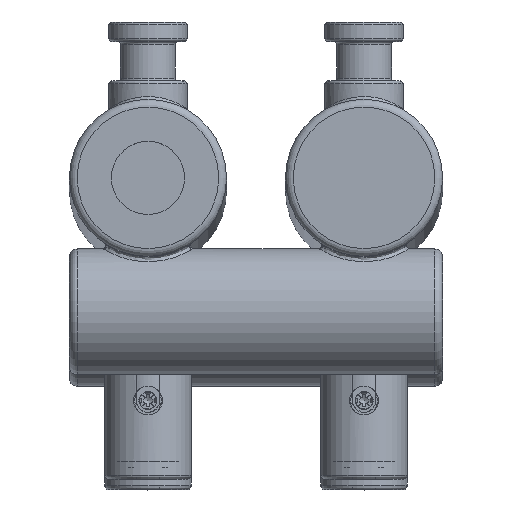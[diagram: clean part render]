
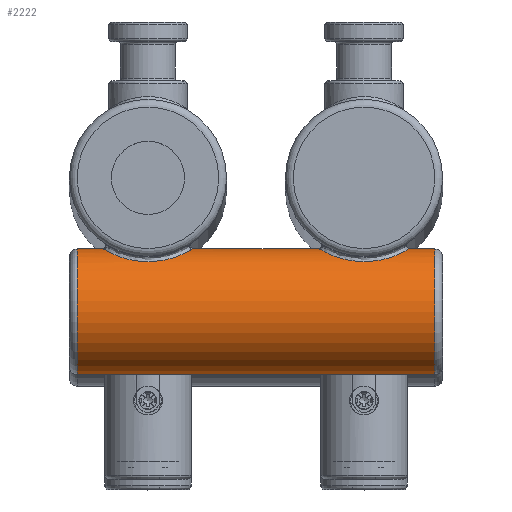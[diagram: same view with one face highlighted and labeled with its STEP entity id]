
A CAD part, top view. The second image highlights one B-rep face of the part: STEP entity #2222.
In plain terms, the highlighted cylindrical face has radius 16 mm (diameter 32 mm), a full revolution.
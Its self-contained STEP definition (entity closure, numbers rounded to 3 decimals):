
#175=FACE_BOUND('',#549,.T.);
#176=FACE_BOUND('',#550,.T.);
#199=LINE('',#4394,#279);
#279=VECTOR('',#2776,16.);
#359=CYLINDRICAL_SURFACE('',#2417,16.);
#397=FACE_OUTER_BOUND('',#548,.T.);
#548=EDGE_LOOP('',(#1560,#1561,#1562,#1563));
#549=EDGE_LOOP('',(#1564));
#550=EDGE_LOOP('',(#1565));
#714=B_SPLINE_CURVE_WITH_KNOTS('',3,(#4365,#4366,#4367,#4368,#4369,#4370,
#4371,#4372,#4373,#4374,#4375,#4376,#4377,#4378,#4379,#4380,#4381,#4382,
#4383,#4384,#4385,#4386,#4387,#4388,#4389),.UNSPECIFIED.,.T.,.F.,(4,1,1,
1,1,1,1,1,1,1,1,1,1,1,1,1,1,1,1,1,1,1,4),(0.,0.367,0.733,
0.756,0.779,0.825,0.916,
1.1,1.466,1.955,2.199,2.322,
2.444,2.688,2.933,3.177,3.421,
3.666,3.91,4.154,4.399,4.765,
5.132),.UNSPECIFIED.);
#715=B_SPLINE_CURVE_WITH_KNOTS('',3,(#4397,#4398,#4399,#4400,#4401,#4402,
#4403,#4404,#4405,#4406,#4407,#4408,#4409,#4410,#4411,#4412,#4413,#4414,
#4415,#4416,#4417,#4418,#4419,#4420,#4421),.UNSPECIFIED.,.T.,.F.,(4,1,1,
1,1,1,1,1,1,1,1,1,1,1,1,1,1,1,1,1,1,1,4),(0.,0.367,0.733,
1.1,1.283,1.466,1.711,1.955,
2.077,2.199,2.444,2.933,3.177,
3.421,3.666,3.788,3.91,4.154,
4.277,4.399,4.582,4.765,5.132),
 .UNSPECIFIED.);
#764=CIRCLE('',#2418,16.);
#765=CIRCLE('',#2419,16.);
#960=VERTEX_POINT('',#4363);
#961=VERTEX_POINT('',#4391);
#962=VERTEX_POINT('',#4393);
#963=VERTEX_POINT('',#4396);
#1204=EDGE_CURVE('',#960,#960,#714,.T.);
#1205=EDGE_CURVE('',#961,#961,#764,.T.);
#1206=EDGE_CURVE('',#961,#962,#199,.T.);
#1207=EDGE_CURVE('',#962,#962,#765,.T.);
#1208=EDGE_CURVE('',#963,#963,#715,.T.);
#1560=ORIENTED_EDGE('',*,*,#1205,.F.);
#1561=ORIENTED_EDGE('',*,*,#1206,.T.);
#1562=ORIENTED_EDGE('',*,*,#1207,.F.);
#1563=ORIENTED_EDGE('',*,*,#1206,.F.);
#1564=ORIENTED_EDGE('',*,*,#1208,.F.);
#1565=ORIENTED_EDGE('',*,*,#1204,.F.);
#2222=ADVANCED_FACE('',(#397,#175,#176),#359,.T.);
#2417=AXIS2_PLACEMENT_3D('',#4390,#2772,#2773);
#2418=AXIS2_PLACEMENT_3D('',#4392,#2774,#2775);
#2419=AXIS2_PLACEMENT_3D('',#4395,#2777,#2778);
#2772=DIRECTION('center_axis',(-1.,0.,0.));
#2773=DIRECTION('ref_axis',(0.,0.,1.));
#2774=DIRECTION('center_axis',(-1.,0.,0.));
#2775=DIRECTION('ref_axis',(0.,0.,1.));
#2776=DIRECTION('',(1.,0.,0.));
#2777=DIRECTION('center_axis',(1.,0.,0.));
#2778=DIRECTION('ref_axis',(0.,0.,1.));
#4363=CARTESIAN_POINT('',(-55.,-21.257,1769.676));
#4365=CARTESIAN_POINT('Ctrl Pts',(-55.,-21.257,1769.676));
#4366=CARTESIAN_POINT('Ctrl Pts',(-53.333,-21.257,1769.676));
#4367=CARTESIAN_POINT('Ctrl Pts',(-49.993,-20.856,1769.184));
#4368=CARTESIAN_POINT('Ctrl Pts',(-47.133,-19.807,1767.498));
#4369=CARTESIAN_POINT('Ctrl Pts',(-45.941,-19.258,1766.223));
#4370=CARTESIAN_POINT('Ctrl Pts',(-45.686,-19.137,1765.931));
#4371=CARTESIAN_POINT('Ctrl Pts',(-45.266,-18.931,1765.398));
#4372=CARTESIAN_POINT('Ctrl Pts',(-44.533,-18.546,1764.247));
#4373=CARTESIAN_POINT('Ctrl Pts',(-43.543,-17.949,1761.665));
#4374=CARTESIAN_POINT('Ctrl Pts',(-43.519,-17.942,1756.937));
#4375=CARTESIAN_POINT('Ctrl Pts',(-46.228,-19.553,1752.87));
#4376=CARTESIAN_POINT('Ctrl Pts',(-49.596,-20.618,1751.22));
#4377=CARTESIAN_POINT('Ctrl Pts',(-51.694,-21.024,1750.635));
#4378=CARTESIAN_POINT('Ctrl Pts',(-53.879,-21.279,1750.296));
#4379=CARTESIAN_POINT('Ctrl Pts',(-56.681,-21.278,1750.295));
#4380=CARTESIAN_POINT('Ctrl Pts',(-59.928,-20.769,1750.977));
#4381=CARTESIAN_POINT('Ctrl Pts',(-62.797,-19.861,1752.415));
#4382=CARTESIAN_POINT('Ctrl Pts',(-64.987,-18.831,1754.662));
#4383=CARTESIAN_POINT('Ctrl Pts',(-66.25,-18.078,1757.581));
#4384=CARTESIAN_POINT('Ctrl Pts',(-66.504,-17.911,1760.817));
#4385=CARTESIAN_POINT('Ctrl Pts',(-65.743,-18.396,1763.943));
#4386=CARTESIAN_POINT('Ctrl Pts',(-63.706,-19.497,1767.001));
#4387=CARTESIAN_POINT('Ctrl Pts',(-60.007,-20.859,1769.186));
#4388=CARTESIAN_POINT('Ctrl Pts',(-56.667,-21.257,1769.676));
#4389=CARTESIAN_POINT('Ctrl Pts',(-55.,-21.257,1769.676));
#4390=CARTESIAN_POINT('Origin',(20.,-34.,1760.));
#4391=CARTESIAN_POINT('',(-73.,-34.,1744.));
#4392=CARTESIAN_POINT('Origin',(-73.,-34.,1760.));
#4393=CARTESIAN_POINT('',(18.,-34.,1744.));
#4394=CARTESIAN_POINT('',(20.,-34.,1744.));
#4395=CARTESIAN_POINT('Origin',(18.,-34.,1760.));
#4396=CARTESIAN_POINT('',(0.,-21.257,1769.676));
#4397=CARTESIAN_POINT('Ctrl Pts',(0.,-21.257,
1769.676));
#4398=CARTESIAN_POINT('Ctrl Pts',(1.667,-21.257,1769.676));
#4399=CARTESIAN_POINT('Ctrl Pts',(5.005,-20.862,1769.184));
#4400=CARTESIAN_POINT('Ctrl Pts',(9.172,-19.323,1766.732));
#4401=CARTESIAN_POINT('Ctrl Pts',(11.085,-18.177,1763.197));
#4402=CARTESIAN_POINT('Ctrl Pts',(11.461,-17.94,1759.999));
#4403=CARTESIAN_POINT('Ctrl Pts',(11.146,-18.139,1757.337));
#4404=CARTESIAN_POINT('Ctrl Pts',(9.987,-18.832,1754.662));
#4405=CARTESIAN_POINT('Ctrl Pts',(8.163,-19.688,1752.79));
#4406=CARTESIAN_POINT('Ctrl Pts',(6.363,-20.315,1751.696));
#4407=CARTESIAN_POINT('Ctrl Pts',(4.387,-20.85,1750.862));
#4408=CARTESIAN_POINT('Ctrl Pts',(0.602,-21.46,1750.076));
#4409=CARTESIAN_POINT('Ctrl Pts',(-3.97,-21.079,1750.503));
#4410=CARTESIAN_POINT('Ctrl Pts',(-7.798,-19.86,1752.413));
#4411=CARTESIAN_POINT('Ctrl Pts',(-9.986,-18.833,1754.664));
#4412=CARTESIAN_POINT('Ctrl Pts',(-11.04,-18.204,1757.095));
#4413=CARTESIAN_POINT('Ctrl Pts',(-11.377,-17.994,1759.199));
#4414=CARTESIAN_POINT('Ctrl Pts',(-11.377,-17.992,1761.337));
#4415=CARTESIAN_POINT('Ctrl Pts',(-10.869,-18.315,1763.422));
#4416=CARTESIAN_POINT('Ctrl Pts',(-9.87,-18.866,1765.253));
#4417=CARTESIAN_POINT('Ctrl Pts',(-8.73,-19.426,1766.665));
#4418=CARTESIAN_POINT('Ctrl Pts',(-7.088,-20.096,1767.962));
#4419=CARTESIAN_POINT('Ctrl Pts',(-4.172,-20.954,1769.303));
#4420=CARTESIAN_POINT('Ctrl Pts',(-1.667,-21.257,1769.676));
#4421=CARTESIAN_POINT('Ctrl Pts',(0.,-21.257,
1769.676));
